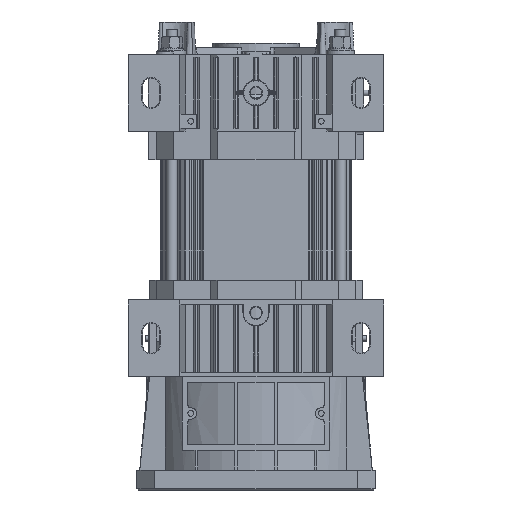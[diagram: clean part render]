
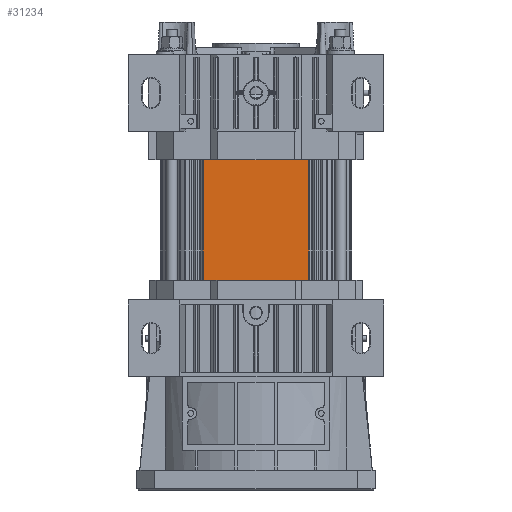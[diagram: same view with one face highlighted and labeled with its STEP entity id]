
A CAD part, front view. The second image highlights one B-rep face of the part: STEP entity #31234.
In plain terms, the highlighted planar face has unit normal (0, -1, 0).
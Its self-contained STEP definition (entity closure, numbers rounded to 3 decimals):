
#3448=LINE('',#53690,#6360);
#3684=LINE('',#54433,#6596);
#3685=LINE('',#54436,#6597);
#3686=LINE('',#54437,#6598);
#6360=VECTOR('',#42540,10.);
#6596=VECTOR('',#43294,10.);
#6597=VECTOR('',#43299,10.);
#6598=VECTOR('',#43300,10.);
#7603=PLANE('',#34358);
#9453=FACE_OUTER_BOUND('',#11312,.T.);
#11312=EDGE_LOOP('',(#28886,#28887,#28888,#28889));
#15380=VERTEX_POINT('',#53683);
#15383=VERTEX_POINT('',#53688);
#15630=VERTEX_POINT('',#54430);
#15631=VERTEX_POINT('',#54432);
#19771=EDGE_CURVE('',#15383,#15380,#3448,.T.);
#20142=EDGE_CURVE('',#15631,#15630,#3684,.T.);
#20144=EDGE_CURVE('',#15630,#15380,#3685,.T.);
#20145=EDGE_CURVE('',#15383,#15631,#3686,.T.);
#28886=ORIENTED_EDGE('',*,*,#20144,.T.);
#28887=ORIENTED_EDGE('',*,*,#19771,.F.);
#28888=ORIENTED_EDGE('',*,*,#20145,.T.);
#28889=ORIENTED_EDGE('',*,*,#20142,.T.);
#31234=ADVANCED_FACE('',(#9453),#7603,.T.);
#34358=AXIS2_PLACEMENT_3D('',#54435,#43297,#43298);
#42540=DIRECTION('',(0.,0.,1.));
#43294=DIRECTION('',(0.,0.,1.));
#43297=DIRECTION('center_axis',(0.,-1.,0.));
#43298=DIRECTION('ref_axis',(0.,0.,-1.));
#43299=DIRECTION('',(-1.,0.,0.));
#43300=DIRECTION('',(1.,0.,0.));
#53683=CARTESIAN_POINT('',(6506.45,-1976.3,95.));
#53688=CARTESIAN_POINT('',(6506.45,-1976.3,0.));
#53690=CARTESIAN_POINT('',(6506.45,-1976.3,0.));
#54430=CARTESIAN_POINT('',(6580.572,-1976.3,95.));
#54432=CARTESIAN_POINT('',(6580.572,-1976.3,0.));
#54433=CARTESIAN_POINT('',(6580.572,-1976.3,0.));
#54435=CARTESIAN_POINT('Origin',(6580.572,-1976.3,0.));
#54436=CARTESIAN_POINT('',(6506.45,-1976.3,95.));
#54437=CARTESIAN_POINT('',(6506.45,-1976.3,0.));
